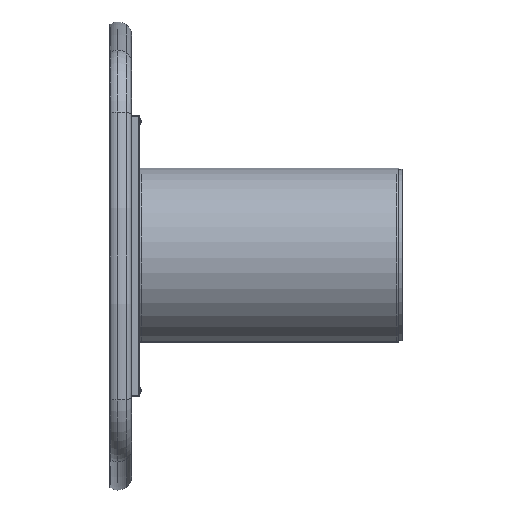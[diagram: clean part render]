
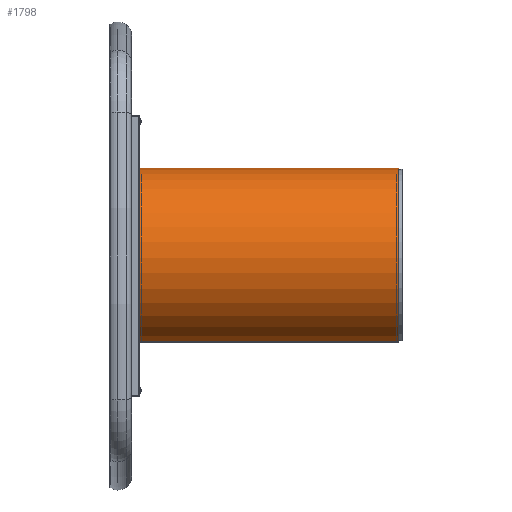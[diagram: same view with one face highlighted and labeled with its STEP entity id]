
A CAD part, left-side view. The second image highlights one B-rep face of the part: STEP entity #1798.
In plain terms, the highlighted cylindrical face has radius 230 mm (diameter 460 mm), a partial arc.
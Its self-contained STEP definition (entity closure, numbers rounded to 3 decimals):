
#904 = DIRECTION ( 'NONE',  ( 0., 0., 1. ) ) ;
#1798 = ADVANCED_FACE ( 'NONE', ( #14525 ), #8190, .T. ) ;
#2299 = VERTEX_POINT ( 'NONE', #16074 ) ;
#2785 = CARTESIAN_POINT ( 'NONE',  ( 2., 0., 0. ) ) ;
#4548 = VERTEX_POINT ( 'NONE', #15297 ) ;
#5116 = CARTESIAN_POINT ( 'NONE',  ( 2., 665., 0. ) ) ;
#5977 = CARTESIAN_POINT ( 'NONE',  ( 2., 665., -230. ) ) ;
#7261 = LINE ( 'NONE', #5977, #18872 ) ;
#7286 = DIRECTION ( 'NONE',  ( 0., 1., 0. ) ) ;
#7462 = CARTESIAN_POINT ( 'NONE',  ( 2., 665., 230. ) ) ;
#7714 = AXIS2_PLACEMENT_3D ( 'NONE', #8971, #7286, #904 ) ;
#7773 = CARTESIAN_POINT ( 'NONE',  ( 2., 665., -230. ) ) ;
#8190 = CYLINDRICAL_SURFACE ( 'NONE', #10870, 230. ) ;
#8262 = EDGE_LOOP ( 'NONE', ( #9366, #14063, #16277, #11391 ) ) ;
#8291 = DIRECTION ( 'NONE',  ( 0., 0., -1. ) ) ;
#8971 = CARTESIAN_POINT ( 'NONE',  ( 2., 665., 0. ) ) ;
#9049 = DIRECTION ( 'NONE',  ( 0., -1., 0. ) ) ;
#9366 = ORIENTED_EDGE ( 'NONE', *, *, #19341, .T. ) ;
#10111 = VECTOR ( 'NONE', #17158, 1000. ) ;
#10870 = AXIS2_PLACEMENT_3D ( 'NONE', #5116, #11574, #8291 ) ;
#11355 = EDGE_CURVE ( 'NONE', #2299, #4548, #15580, .T. ) ;
#11391 = ORIENTED_EDGE ( 'NONE', *, *, #11355, .T. ) ;
#11574 = DIRECTION ( 'NONE',  ( 0., -1., 0. ) ) ;
#12149 = EDGE_CURVE ( 'NONE', #2299, #13098, #15794, .T. ) ;
#12968 = CIRCLE ( 'NONE', #14638, 230. ) ;
#13098 = VERTEX_POINT ( 'NONE', #7773 ) ;
#14063 = ORIENTED_EDGE ( 'NONE', *, *, #18113, .F. ) ;
#14525 = FACE_OUTER_BOUND ( 'NONE', #8262, .T. ) ;
#14638 = AXIS2_PLACEMENT_3D ( 'NONE', #2785, #18964, #15687 ) ;
#15297 = CARTESIAN_POINT ( 'NONE',  ( 2., 0., 230. ) ) ;
#15580 = LINE ( 'NONE', #7462, #10111 ) ;
#15687 = DIRECTION ( 'NONE',  ( 0., 0., 1. ) ) ;
#15794 = CIRCLE ( 'NONE', #7714, 230. ) ;
#16074 = CARTESIAN_POINT ( 'NONE',  ( 2., 665., 230. ) ) ;
#16277 = ORIENTED_EDGE ( 'NONE', *, *, #12149, .F. ) ;
#17158 = DIRECTION ( 'NONE',  ( 0., -1., 0. ) ) ;
#18113 = EDGE_CURVE ( 'NONE', #13098, #19656, #7261, .T. ) ;
#18872 = VECTOR ( 'NONE', #9049, 1000. ) ;
#18964 = DIRECTION ( 'NONE',  ( 0., 1., 0. ) ) ;
#19341 = EDGE_CURVE ( 'NONE', #4548, #19656, #12968, .T. ) ;
#19656 = VERTEX_POINT ( 'NONE', #20022 ) ;
#20022 = CARTESIAN_POINT ( 'NONE',  ( 2., 0., -230. ) ) ;
